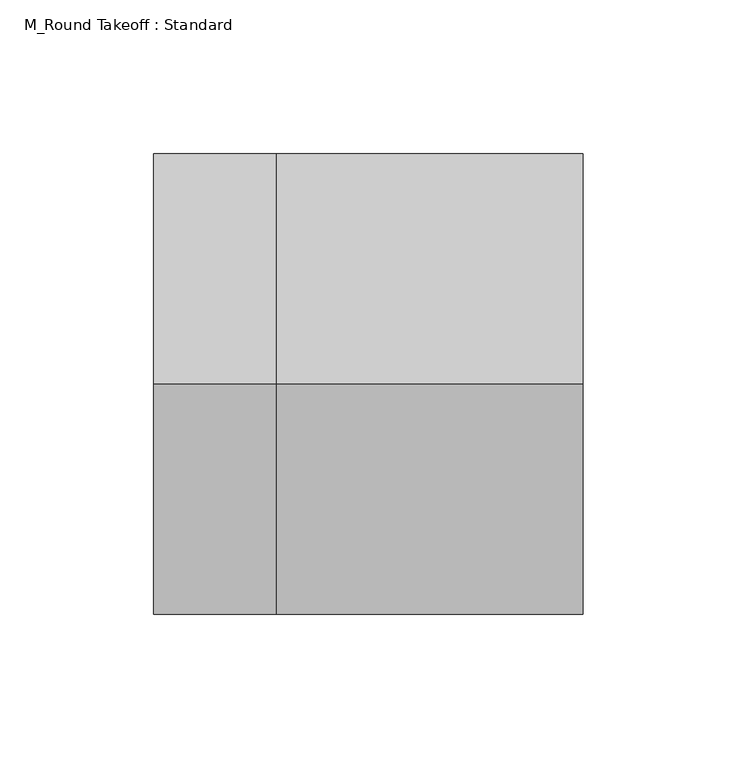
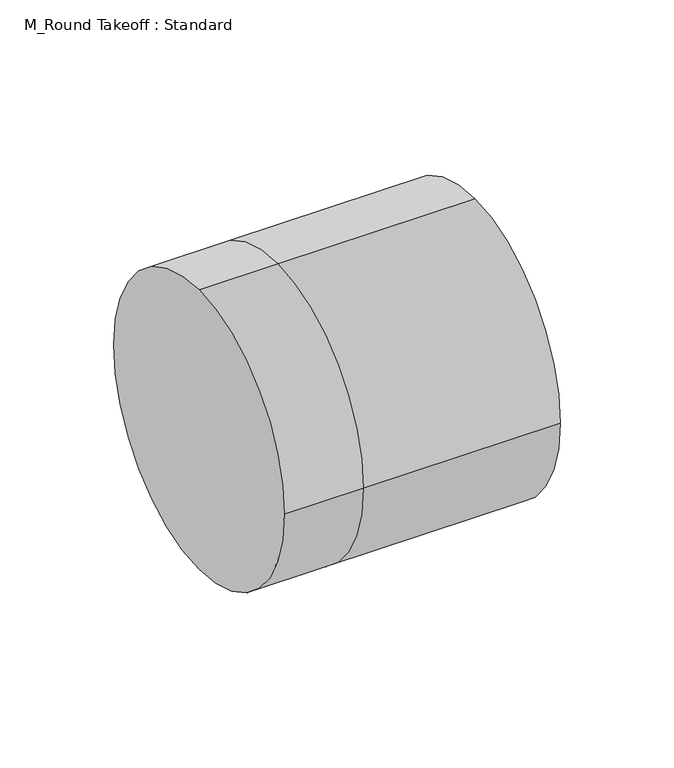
"""IFC4 building model written with IfcOpenShell, lengths in millimetres: duct fitting geometry, M_Round Takeoff : Standard."""

from ifc_helpers import new_model, si_unit, frame, origin, place, context, project, spatial, circle_curve, source, transform, mapped, element, save
from ifc_brep_helpers import plane_surface, cylinder_surface, advanced_brep


def m_round_takeoff_standard_e1559ea3(model_context):
    return source(origin(), model_context, "Body", "AdvancedBrep", [
        advanced_brep(
        [(-39.9522172, 0.0, 75.0), (-39.9522172, 75.0, 0.0), (-39.9522172, 0.0, -75.0), (-39.9522172, -75.0, 0.0), (0.0, 0.0, 75.0), (0.0, 75.0, 0.0), (0.0, 0.0, -75.0), (0.0, -75.0, 0.0), (100.0, 0.0, 75.0), (100.0, -75.0, 0.0), (100.0, 0.0, -75.0), (100.0, 75.0, 0.0)],
        [
            (0, 1, circle_curve(frame((-39.9522172, 0.0, 0.0), z_axis=(-1.0, 0.0, 0.0), x_axis=(0.0, 1.0, 0.0)), 75.0)),
            (1, 2, circle_curve(frame((-39.9522172, 0.0, 0.0), z_axis=(-1.0, 0.0, 0.0), x_axis=(0.0, 1.0, 0.0)), 75.0)),
            (2, 3, circle_curve(frame((-39.9522172, 0.0, 0.0), z_axis=(-1.0, 0.0, 0.0), x_axis=(0.0, 1.0, 0.0)), 75.0)),
            (3, 0, circle_curve(frame((-39.9522172, 0.0, 0.0), z_axis=(-1.0, 0.0, 0.0), x_axis=(0.0, 1.0, 0.0)), 75.0)),
            (0, 4),
            (4, 5, circle_curve(frame((0.0, 0.0, 0.0), z_axis=(-1.0, 0.0, 0.0), x_axis=(0.0, 1.0, 0.0)), 75.0)),
            (5, 1),
            (5, 6, circle_curve(frame((0.0, 0.0, 0.0), z_axis=(-1.0, 0.0, 0.0), x_axis=(0.0, 1.0, 0.0)), 75.0)),
            (6, 2),
            (6, 7, circle_curve(frame((0.0, 0.0, 0.0), z_axis=(-1.0, 0.0, 0.0), x_axis=(0.0, 1.0, 0.0)), 75.0)),
            (7, 3),
            (7, 4, circle_curve(frame((0.0, 0.0, 0.0), z_axis=(-1.0, 0.0, 0.0), x_axis=(0.0, 1.0, 0.0)), 75.0)),
            (8, 9, circle_curve(frame((100.0, 0.0, 0.0), z_axis=(1.0, 0.0, 0.0), x_axis=(0.0, 1.0, 0.0)), 75.0)),
            (9, 10, circle_curve(frame((100.0, 0.0, 0.0), z_axis=(1.0, 0.0, 0.0), x_axis=(0.0, 1.0, 0.0)), 75.0)),
            (10, 11, circle_curve(frame((100.0, 0.0, 0.0), z_axis=(1.0, 0.0, 0.0), x_axis=(0.0, 1.0, 0.0)), 75.0)),
            (11, 8, circle_curve(frame((100.0, 0.0, 0.0), z_axis=(1.0, 0.0, 0.0), x_axis=(0.0, 1.0, 0.0)), 75.0)),
            (11, 5),
            (4, 8),
            (10, 6),
            (9, 7),
        ],
        [
            plane_surface(frame((-39.9522172, 0.0, 0.0), z_axis=(-1.0, 0.0, 0.0), x_axis=(0.0, 0.0, 1.0))),
            cylinder_surface(frame((-39.9522172, 0.0, 0.0), z_axis=(-1.0, 0.0, 0.0), x_axis=(0.0, 1.0, 0.0)), 75.0),
            plane_surface(frame((100.0, 0.0, 0.0), z_axis=(1.0, 0.0, 0.0), x_axis=(0.0, 0.0, 1.0))),
            cylinder_surface(frame((0.0, 0.0, 0.0), z_axis=(-1.0, 0.0, 0.0), x_axis=(0.0, 1.0, 0.0)), 75.0),
        ],
        [
            (0, [[1, 2, 3, 4]]),
            (1, [[-1, 5, 6, 7]]),
            (1, [[-2, -7, 8, 9]]),
            (1, [[-3, -9, 10, 11]]),
            (1, [[-4, -11, 12, -5]]),
            (2, [[13, 14, 15, 16]]),
            (3, [[-16, 17, -6, 18]]),
            (3, [[-15, 19, -8, -17]]),
            (3, [[-14, 20, -10, -19]]),
            (3, [[-13, -18, -12, -20]]),
        ],
    ),
        advanced_brep(
        [(100.0, 0.0, 75.0), (100.0, -75.0, 0.0), (100.0, 0.0, -75.0), (100.0, 75.0, 0.0), (0.0, 75.0, 0.0), (0.0, 0.0, 75.0), (0.0, 0.0, -75.0), (0.0, -75.0, 0.0), (-39.9522172, 0.0, 75.0), (-39.9522172, 75.0, 0.0), (-39.9522172, 0.0, -75.0), (-39.9522172, -75.0, 0.0)],
        [
            (0, 1, circle_curve(frame((100.0, 0.0, 0.0), z_axis=(1.0, 0.0, 0.0), x_axis=(0.0, 1.0, 0.0)), 75.0)),
            (1, 2, circle_curve(frame((100.0, 0.0, 0.0), z_axis=(1.0, 0.0, 0.0), x_axis=(0.0, 1.0, 0.0)), 75.0)),
            (2, 3, circle_curve(frame((100.0, 0.0, 0.0), z_axis=(1.0, 0.0, 0.0), x_axis=(0.0, 1.0, 0.0)), 75.0)),
            (3, 0, circle_curve(frame((100.0, 0.0, 0.0), z_axis=(1.0, 0.0, 0.0), x_axis=(0.0, 1.0, 0.0)), 75.0)),
            (3, 4),
            (4, 5, circle_curve(frame((0.0, 0.0, 0.0), z_axis=(1.0, 0.0, 0.0), x_axis=(0.0, 1.0, 0.0)), 75.0)),
            (5, 0),
            (2, 6),
            (6, 4, circle_curve(frame((0.0, 0.0, 0.0), z_axis=(1.0, 0.0, 0.0), x_axis=(0.0, 1.0, 0.0)), 75.0)),
            (1, 7),
            (7, 6, circle_curve(frame((0.0, 0.0, 0.0), z_axis=(1.0, 0.0, 0.0), x_axis=(0.0, 1.0, 0.0)), 75.0)),
            (5, 7, circle_curve(frame((0.0, 0.0, 0.0), z_axis=(1.0, 0.0, 0.0), x_axis=(0.0, 1.0, 0.0)), 75.0)),
            (8, 9, circle_curve(frame((-39.9522172, 0.0, 0.0), z_axis=(-1.0, 0.0, 0.0), x_axis=(0.0, 1.0, 0.0)), 75.0)),
            (9, 10, circle_curve(frame((-39.9522172, 0.0, 0.0), z_axis=(-1.0, 0.0, 0.0), x_axis=(0.0, 1.0, 0.0)), 75.0)),
            (10, 11, circle_curve(frame((-39.9522172, 0.0, 0.0), z_axis=(-1.0, 0.0, 0.0), x_axis=(0.0, 1.0, 0.0)), 75.0)),
            (11, 8, circle_curve(frame((-39.9522172, 0.0, 0.0), z_axis=(-1.0, 0.0, 0.0), x_axis=(0.0, 1.0, 0.0)), 75.0)),
            (8, 5),
            (4, 9),
            (6, 10),
            (7, 11),
        ],
        [
            plane_surface(frame((100.0, 0.0, 0.0), z_axis=(1.0, 0.0, 0.0), x_axis=(0.0, 0.0, 1.0))),
            cylinder_surface(frame((0.0, 0.0, 0.0), z_axis=(-1.0, 0.0, 0.0), x_axis=(0.0, 1.0, 0.0)), 75.0),
            plane_surface(frame((-39.9522172, 0.0, 0.0), z_axis=(-1.0, 0.0, 0.0), x_axis=(0.0, 0.0, 1.0))),
            cylinder_surface(frame((-39.9522172, 0.0, 0.0), z_axis=(-1.0, 0.0, 0.0), x_axis=(0.0, 1.0, 0.0)), 75.0),
        ],
        [
            (0, [[1, 2, 3, 4]]),
            (1, [[-4, 5, 6, 7]]),
            (1, [[-3, 8, 9, -5]]),
            (1, [[-2, 10, 11, -8]]),
            (1, [[-1, -7, 12, -10]]),
            (2, [[13, 14, 15, 16]]),
            (3, [[-13, 17, -6, 18]]),
            (3, [[-14, -18, -9, 19]]),
            (3, [[-15, -19, -11, 20]]),
            (3, [[-16, -20, -12, -17]]),
        ],
    ),
        advanced_brep(
        [(-39.9522172, 0.0, 75.0), (-39.9522172, 75.0, 0.0), (-39.9522172, 0.0, -75.0), (-39.9522172, -75.0, 0.0), (0.0, 0.0, 75.0), (0.0, 75.0, 0.0), (0.0, 0.0, -75.0), (0.0, -75.0, 0.0), (100.0, 0.0, 75.0), (100.0, -75.0, 0.0), (100.0, 0.0, -75.0), (100.0, 75.0, 0.0)],
        [
            (0, 1, circle_curve(frame((-39.9522172, 0.0, 0.0), z_axis=(-1.0, 0.0, 0.0), x_axis=(0.0, 1.0, 0.0)), 75.0)),
            (1, 2, circle_curve(frame((-39.9522172, 0.0, 0.0), z_axis=(-1.0, 0.0, 0.0), x_axis=(0.0, 1.0, 0.0)), 75.0)),
            (2, 3, circle_curve(frame((-39.9522172, 0.0, 0.0), z_axis=(-1.0, 0.0, 0.0), x_axis=(0.0, 1.0, 0.0)), 75.0)),
            (3, 0, circle_curve(frame((-39.9522172, 0.0, 0.0), z_axis=(-1.0, 0.0, 0.0), x_axis=(0.0, 1.0, 0.0)), 75.0)),
            (0, 4),
            (4, 5, circle_curve(frame((0.0, 0.0, 0.0), z_axis=(-1.0, 0.0, 0.0), x_axis=(0.0, 1.0, 0.0)), 75.0)),
            (5, 1),
            (5, 6, circle_curve(frame((0.0, 0.0, 0.0), z_axis=(-1.0, 0.0, 0.0), x_axis=(0.0, 1.0, 0.0)), 75.0)),
            (6, 2),
            (6, 7, circle_curve(frame((0.0, 0.0, 0.0), z_axis=(-1.0, 0.0, 0.0), x_axis=(0.0, 1.0, 0.0)), 75.0)),
            (7, 3),
            (7, 4, circle_curve(frame((0.0, 0.0, 0.0), z_axis=(-1.0, 0.0, 0.0), x_axis=(0.0, 1.0, 0.0)), 75.0)),
            (8, 9, circle_curve(frame((100.0, 0.0, 0.0), z_axis=(1.0, 0.0, 0.0), x_axis=(0.0, 1.0, 0.0)), 75.0)),
            (9, 10, circle_curve(frame((100.0, 0.0, 0.0), z_axis=(1.0, 0.0, 0.0), x_axis=(0.0, 1.0, 0.0)), 75.0)),
            (10, 11, circle_curve(frame((100.0, 0.0, 0.0), z_axis=(1.0, 0.0, 0.0), x_axis=(0.0, 1.0, 0.0)), 75.0)),
            (11, 8, circle_curve(frame((100.0, 0.0, 0.0), z_axis=(1.0, 0.0, 0.0), x_axis=(0.0, 1.0, 0.0)), 75.0)),
            (11, 5),
            (4, 8),
            (10, 6),
            (9, 7),
        ],
        [
            plane_surface(frame((-39.9522172, 0.0, 0.0), z_axis=(-1.0, 0.0, 0.0), x_axis=(0.0, 0.0, 1.0))),
            cylinder_surface(frame((-39.9522172, 0.0, 0.0), z_axis=(-1.0, 0.0, 0.0), x_axis=(0.0, 1.0, 0.0)), 75.0),
            plane_surface(frame((100.0, 0.0, 0.0), z_axis=(1.0, 0.0, 0.0), x_axis=(0.0, 0.0, 1.0))),
            cylinder_surface(frame((0.0, 0.0, 0.0), z_axis=(-1.0, 0.0, 0.0), x_axis=(0.0, 1.0, 0.0)), 75.0),
        ],
        [
            (0, [[1, 2, 3, 4]]),
            (1, [[-1, 5, 6, 7]]),
            (1, [[-2, -7, 8, 9]]),
            (1, [[-3, -9, 10, 11]]),
            (1, [[-4, -11, 12, -5]]),
            (2, [[13, 14, 15, 16]]),
            (3, [[-16, 17, -6, 18]]),
            (3, [[-15, 19, -8, -17]]),
            (3, [[-14, 20, -10, -19]]),
            (3, [[-13, -18, -12, -20]]),
        ],
    ),
    ])


if __name__ == "__main__":
    model = new_model("IFC4")
    model_context = context("Model", 3, world=origin())
    ifc_project = project(units=[si_unit("LENGTHUNIT", "METRE", prefix="MILLI")], contexts=[model_context])
    site = spatial("IfcSite", under=ifc_project)
    building = spatial("IfcBuilding", under=site)
    placement = place(None, origin())
    m_round_takeoff_standard_shape = m_round_takeoff_standard_e1559ea3(model_context)
    element("IfcDuctFitting", 1, ObjectType="M_Round Takeoff : Standard", at=placement, inside=building, context=model_context, shape_type="MappedRepresentation", body=[
        mapped(m_round_takeoff_standard_shape, transform((0.0, 0.0, 0.0), x_axis=(1.0, 0.0, 0.0), y_axis=(0.0, 1.0, 0.0), z_axis=(0.0, 0.0, 1.0))),
    ])
    save(model, "model.ifc")
